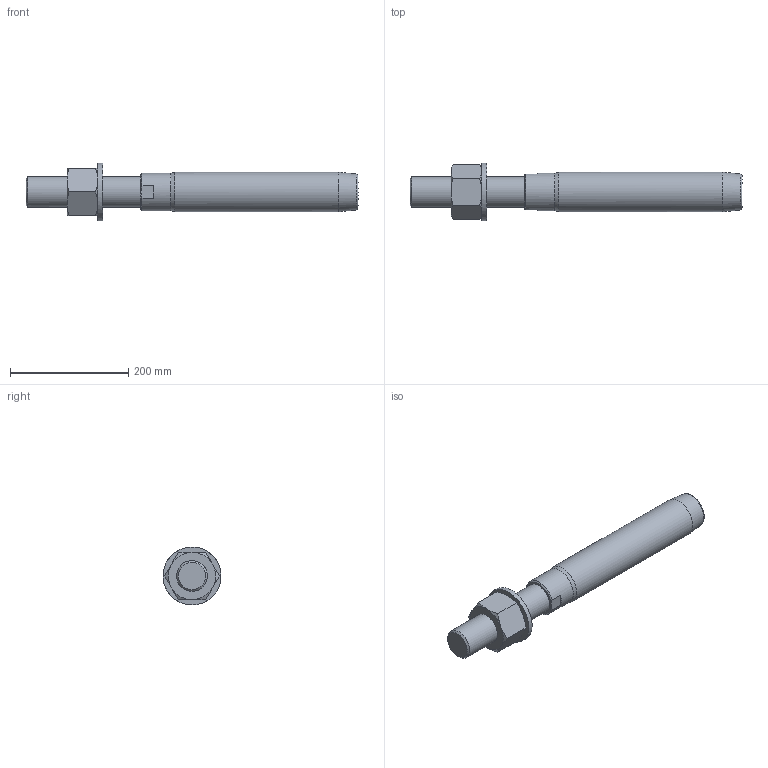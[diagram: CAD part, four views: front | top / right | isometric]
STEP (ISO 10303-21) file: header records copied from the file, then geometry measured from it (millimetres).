
FILE_DESCRIPTION(/* description */ (''),/* implementation_level */ '2;1');
FILE_NAME(/* name */ 'FLT 34_1,4462',/* time_stamp */ '2023-05-23T15:58:07+02:00',/* author */ (''),/* organization */ (''),/* preprocessor_version */ 'ST-DEVELOPER v16.5',/* originating_system */ 'Rhino 7.22',/* authorisation */ '');
FILE_SCHEMA (('CONFIG_CONTROL_DESIGN'));
Length unit declared in the file: millimetre
Products named in the file (1): Document
Bounding box: 561 x 97.97 x 97.97 mm (x, y, z)
Volume: 1897563.4 mm3; surface area: 156512.5 mm2
Topology: 3 solids, 3 shells, 42 faces, 103 edges, 68 vertices
Faces by surface type: bspline 19, plane 17, cylinder 6
Full cylindrical faces by diameter (mm): 48.752 x1, 52 x1, 54 x1, 63.5 x1, 66.8 x1, 98 x1
Entity records: 1563 total; most frequent: CARTESIAN_POINT 861, ORIENTED_EDGE 206, EDGE_CURVE 103, VERTEX_POINT 68, EDGE_LOOP 47, ADVANCED_FACE 42, FACE_OUTER_BOUND 42, DIRECTION 27
